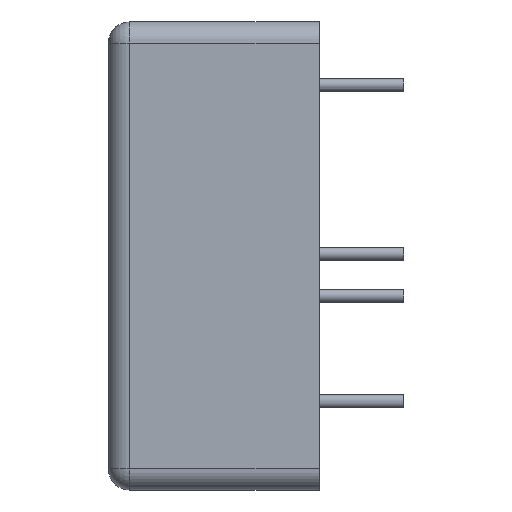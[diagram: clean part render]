
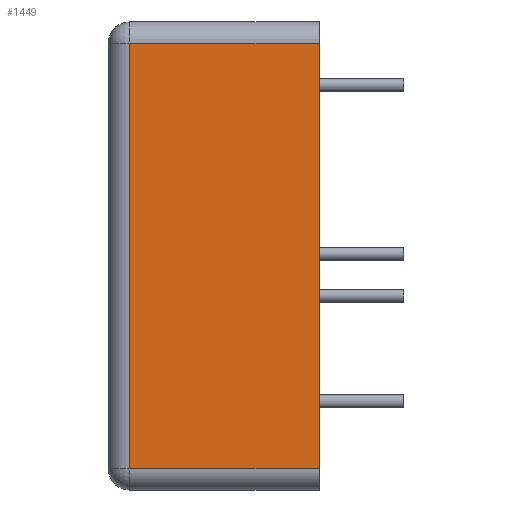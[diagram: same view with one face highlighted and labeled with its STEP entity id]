
A CAD part, left-side view. The second image highlights one B-rep face of the part: STEP entity #1449.
In plain terms, the highlighted planar face has unit normal (-1, 0, 0).
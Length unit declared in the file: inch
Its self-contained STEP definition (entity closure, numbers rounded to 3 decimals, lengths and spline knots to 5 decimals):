
#13 = CARTESIAN_POINT ( 'NONE',  ( -0.875, 0.45, 0.555 ) ) ;
#43 = VECTOR ( 'NONE', #539, 39.37008 ) ;
#143 = PLANE ( 'NONE',  #942 ) ;
#179 = ORIENTED_EDGE ( 'NONE', *, *, #303, .T. ) ;
#184 = LINE ( 'NONE', #13, #1109 ) ;
#186 = VERTEX_POINT ( 'NONE', #609 ) ;
#303 = EDGE_CURVE ( 'NONE', #1242, #1420, #1013, .T. ) ;
#354 = ORIENTED_EDGE ( 'NONE', *, *, #1408, .T. ) ;
#484 = CARTESIAN_POINT ( 'NONE',  ( -0.875, 0., 0.505 ) ) ;
#539 = DIRECTION ( 'NONE',  ( 0., -1., 0. ) ) ;
#609 = CARTESIAN_POINT ( 'NONE',  ( -0.875, 0.45, -0.505 ) ) ;
#658 = DIRECTION ( 'NONE',  ( 0., 1., 0. ) ) ;
#678 = LINE ( 'NONE', #1001, #43 ) ;
#692 = VECTOR ( 'NONE', #658, 39.37008 ) ;
#727 = CARTESIAN_POINT ( 'NONE',  ( -0.875, 0.45, 0.505 ) ) ;
#751 = CARTESIAN_POINT ( 'NONE',  ( -0.875, 0., 0.555 ) ) ;
#805 = ORIENTED_EDGE ( 'NONE', *, *, #992, .T. ) ;
#847 = DIRECTION ( 'NONE',  ( 0., 0., -1. ) ) ;
#878 = CARTESIAN_POINT ( 'NONE',  ( -0.875, 0.5, 0.505 ) ) ;
#917 = EDGE_CURVE ( 'NONE', #1420, #186, #184, .T. ) ;
#942 = AXIS2_PLACEMENT_3D ( 'NONE', #1474, #1235, #847 ) ;
#992 = EDGE_CURVE ( 'NONE', #186, #1230, #678, .T. ) ;
#1001 = CARTESIAN_POINT ( 'NONE',  ( -0.875, 0.5, -0.505 ) ) ;
#1013 = LINE ( 'NONE', #878, #692 ) ;
#1109 = VECTOR ( 'NONE', #1354, 39.37008 ) ;
#1120 = EDGE_LOOP ( 'NONE', ( #1142, #805, #354, #179 ) ) ;
#1130 = LINE ( 'NONE', #751, #1392 ) ;
#1142 = ORIENTED_EDGE ( 'NONE', *, *, #917, .T. ) ;
#1188 = CARTESIAN_POINT ( 'NONE',  ( -0.875, 0., -0.505 ) ) ;
#1230 = VERTEX_POINT ( 'NONE', #1188 ) ;
#1235 = DIRECTION ( 'NONE',  ( 1., 0., 0. ) ) ;
#1242 = VERTEX_POINT ( 'NONE', #484 ) ;
#1354 = DIRECTION ( 'NONE',  ( 0., 0., -1. ) ) ;
#1390 = FACE_OUTER_BOUND ( 'NONE', #1120, .T. ) ;
#1392 = VECTOR ( 'NONE', #1467, 39.37008 ) ;
#1408 = EDGE_CURVE ( 'NONE', #1230, #1242, #1130, .T. ) ;
#1420 = VERTEX_POINT ( 'NONE', #727 ) ;
#1449 = ADVANCED_FACE ( 'NONE', ( #1390 ), #143, .F. ) ;
#1467 = DIRECTION ( 'NONE',  ( 0., 0., 1. ) ) ;
#1474 = CARTESIAN_POINT ( 'NONE',  ( -0.875, 0.5, 0.555 ) ) ;
